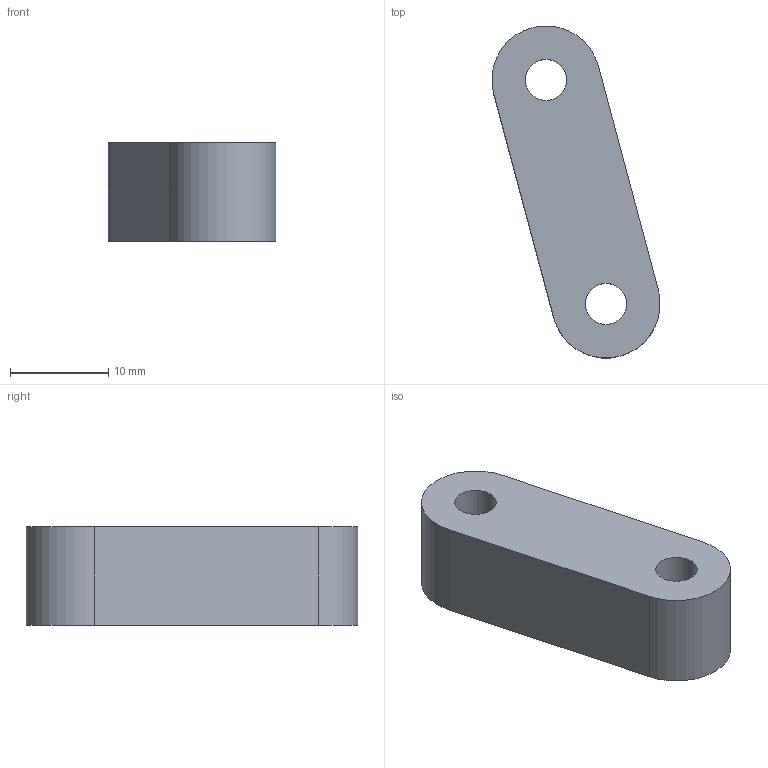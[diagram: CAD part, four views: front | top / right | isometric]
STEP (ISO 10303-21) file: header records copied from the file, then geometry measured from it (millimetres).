
FILE_DESCRIPTION(/* description */ (''),/* implementation_level */ '2;1');
FILE_NAME(/* name */ 'link2 I.step',/* time_stamp */ '2026-02-28T20:12:09+01:00',/* author */ (''),/* organization */ (''),/* preprocessor_version */ 'ST-DEVELOPER v20.1',/* originating_system */ 'Autodesk Translation Framework v14.24.0.0',/* authorisation */ '');
FILE_SCHEMA (('AUTOMOTIVE_DESIGN { 1 0 10303 214 3 1 1 }'));
Length unit declared in the file: millimetre
Products named in the file (1): link2 I
Bounding box: 17.06 x 33.72 x 10 mm (x, y, z)
Volume: 3265.8 mm3; surface area: 1734 mm2
Topology: 1 solids, 1 shells, 8 faces, 18 edges, 12 vertices
Faces by surface type: plane 4, cylinder 4
Full cylindrical faces by diameter (mm): 4.2 x2
Entity records: 271 total; most frequent: DIRECTION 44, CARTESIAN_POINT 39, ORIENTED_EDGE 36, EDGE_CURVE 18, AXIS2_PLACEMENT_3D 17, EDGE_LOOP 12, VERTEX_POINT 12, LINE 10
